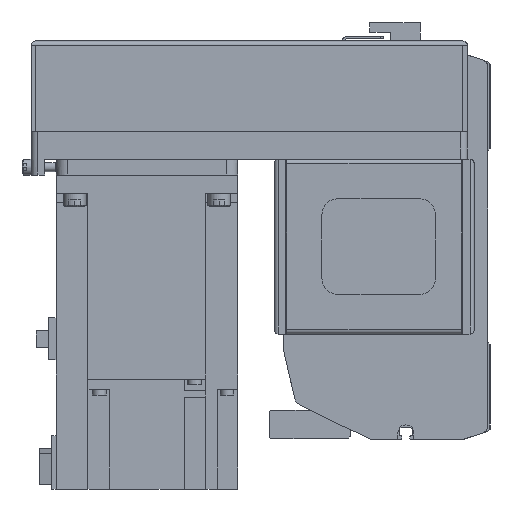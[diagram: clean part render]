
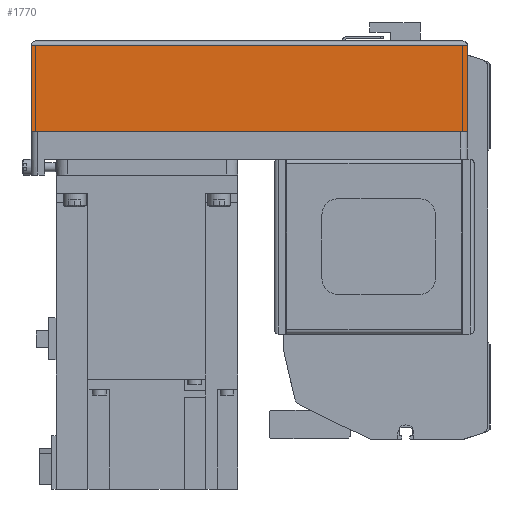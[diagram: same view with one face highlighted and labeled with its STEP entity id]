
A CAD part, left-side view. The second image highlights one B-rep face of the part: STEP entity #1770.
In plain terms, the highlighted planar face has unit normal (-1, 0, 0) as drawn and (0, 1, 0) by its records, which use the part's own axes.
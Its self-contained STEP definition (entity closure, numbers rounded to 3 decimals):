
#1770 = ADVANCED_FACE( '', ( #4166 ), #4167, .T. );
#4166 = FACE_OUTER_BOUND( '', #7350, .T. );
#4167 = PLANE( '', #7351 );
#7350 = EDGE_LOOP( '', ( #12231, #12232, #12233, #12234 ) );
#7351 = AXIS2_PLACEMENT_3D( '', #12235, #12236, #12237 );
#12231 = ORIENTED_EDGE( '', *, *, #19595, .F. );
#12232 = ORIENTED_EDGE( '', *, *, #19820, .F. );
#12233 = ORIENTED_EDGE( '', *, *, #19821, .T. );
#12234 = ORIENTED_EDGE( '', *, *, #19822, .T. );
#12235 = CARTESIAN_POINT( '', ( -192., 40., -50. ) );
#12236 = DIRECTION( '', ( 0., 1., 0. ) );
#12237 = DIRECTION( '', ( 0., 0., 1. ) );
#19595 = EDGE_CURVE( '', #23955, #23658, #23957, .T. );
#19820 = EDGE_CURVE( '', #24311, #23955, #24312, .T. );
#19821 = EDGE_CURVE( '', #24311, #24313, #24314, .T. );
#19822 = EDGE_CURVE( '', #24313, #23658, #24315, .T. );
#23658 = VERTEX_POINT( '', #29622 );
#23955 = VERTEX_POINT( '', #30055 );
#23957 = LINE( '', #30058, #30059 );
#24311 = VERTEX_POINT( '', #30559 );
#24312 = LINE( '', #30560, #30561 );
#24313 = VERTEX_POINT( '', #30562 );
#24314 = LINE( '', #30563, #30564 );
#24315 = LINE( '', #30565, #30566 );
#29622 = CARTESIAN_POINT( '', ( 0., 40., -12.1 ) );
#30055 = CARTESIAN_POINT( '', ( 0., 40., -50. ) );
#30058 = CARTESIAN_POINT( '', ( 0., 40., -50. ) );
#30059 = VECTOR( '', #35672, 1000. );
#30559 = CARTESIAN_POINT( '', ( -192., 40., -50. ) );
#30560 = CARTESIAN_POINT( '', ( -192., 40., -50. ) );
#30561 = VECTOR( '', #35936, 1000. );
#30562 = CARTESIAN_POINT( '', ( -192., 40., -12.1 ) );
#30563 = CARTESIAN_POINT( '', ( -192., 40., -50. ) );
#30564 = VECTOR( '', #35937, 1000. );
#30565 = CARTESIAN_POINT( '', ( -192., 40., -12.1 ) );
#30566 = VECTOR( '', #35938, 1000. );
#35672 = DIRECTION( '', ( 0., 0., 1. ) );
#35936 = DIRECTION( '', ( 1., 0., 0. ) );
#35937 = DIRECTION( '', ( 0., 0., 1. ) );
#35938 = DIRECTION( '', ( 1., 0., 0. ) );
